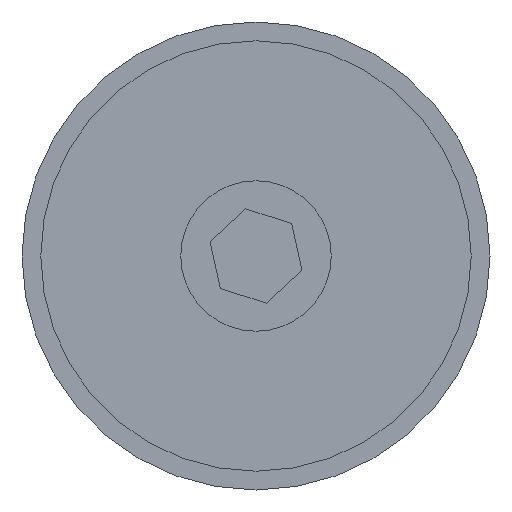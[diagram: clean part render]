
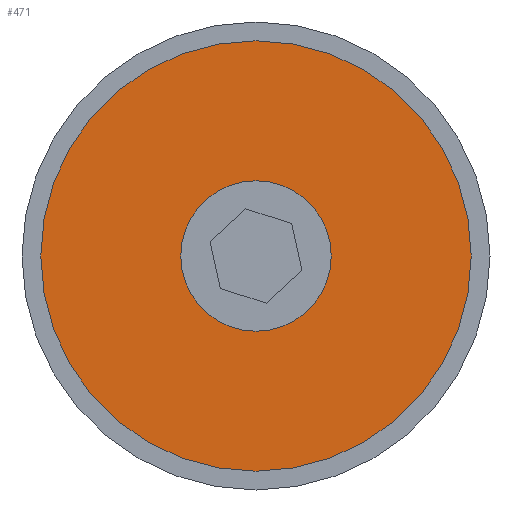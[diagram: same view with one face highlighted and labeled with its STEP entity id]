
A CAD part, front view. The second image highlights one B-rep face of the part: STEP entity #471.
In plain terms, the highlighted planar face has unit normal (0, -1, 0).
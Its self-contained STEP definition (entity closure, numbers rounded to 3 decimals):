
#43 = AXIS2_PLACEMENT_3D ( 'NONE', #485, #429, #414 ) ;
#91 = CARTESIAN_POINT ( 'NONE',  ( 0., 0., 9. ) ) ;
#125 = CIRCLE ( 'NONE', #322, 25.75 ) ;
#322 = AXIS2_PLACEMENT_3D ( 'NONE', #714, #646, #639 ) ;
#330 = CIRCLE ( 'NONE', #1109, 9. ) ;
#414 = DIRECTION ( 'NONE',  ( 0., 0., 1. ) ) ;
#429 = DIRECTION ( 'NONE',  ( 0., 1., 0. ) ) ;
#471 = ADVANCED_FACE ( 'NONE', ( #675, #2072 ), #1214, .T. ) ;
#485 = CARTESIAN_POINT ( 'NONE',  ( 0., 0., 0. ) ) ;
#510 = EDGE_CURVE ( 'NONE', #1750, #956, #721, .T. ) ;
#559 = CIRCLE ( 'NONE', #43, 9. ) ;
#639 = DIRECTION ( 'NONE',  ( 0., 0., 1. ) ) ;
#643 = DIRECTION ( 'NONE',  ( 0., -1., 0. ) ) ;
#646 = DIRECTION ( 'NONE',  ( 0., -1., 0. ) ) ;
#675 = FACE_OUTER_BOUND ( 'NONE', #1951, .T. ) ;
#714 = CARTESIAN_POINT ( 'NONE',  ( 0., 0., 0. ) ) ;
#721 = CIRCLE ( 'NONE', #1078, 25.75 ) ;
#931 = CARTESIAN_POINT ( 'NONE',  ( -25.75, 0., 0. ) ) ;
#956 = VERTEX_POINT ( 'NONE', #1780 ) ;
#982 = AXIS2_PLACEMENT_3D ( 'NONE', #931, #1075, #1383 ) ;
#1054 = CARTESIAN_POINT ( 'NONE',  ( 0., 0., 25.75 ) ) ;
#1075 = DIRECTION ( 'NONE',  ( 0., -1., 0. ) ) ;
#1078 = AXIS2_PLACEMENT_3D ( 'NONE', #1772, #643, #1603 ) ;
#1103 = VERTEX_POINT ( 'NONE', #1952 ) ;
#1109 = AXIS2_PLACEMENT_3D ( 'NONE', #1745, #1775, #1932 ) ;
#1188 = ORIENTED_EDGE ( 'NONE', *, *, #510, .T. ) ;
#1214 = PLANE ( 'NONE',  #982 ) ;
#1257 = EDGE_CURVE ( 'NONE', #1786, #1103, #330, .T. ) ;
#1383 = DIRECTION ( 'NONE',  ( 0., 0., -1. ) ) ;
#1483 = EDGE_CURVE ( 'NONE', #956, #1750, #125, .T. ) ;
#1603 = DIRECTION ( 'NONE',  ( 0., 0., 1. ) ) ;
#1697 = ORIENTED_EDGE ( 'NONE', *, *, #1483, .T. ) ;
#1722 = ORIENTED_EDGE ( 'NONE', *, *, #1857, .T. ) ;
#1742 = ORIENTED_EDGE ( 'NONE', *, *, #1257, .T. ) ;
#1745 = CARTESIAN_POINT ( 'NONE',  ( 0., 0., 0. ) ) ;
#1750 = VERTEX_POINT ( 'NONE', #1054 ) ;
#1772 = CARTESIAN_POINT ( 'NONE',  ( 0., 0., 0. ) ) ;
#1775 = DIRECTION ( 'NONE',  ( 0., 1., 0. ) ) ;
#1780 = CARTESIAN_POINT ( 'NONE',  ( 0., 0., -25.75 ) ) ;
#1786 = VERTEX_POINT ( 'NONE', #91 ) ;
#1857 = EDGE_CURVE ( 'NONE', #1103, #1786, #559, .T. ) ;
#1932 = DIRECTION ( 'NONE',  ( 0., 0., 1. ) ) ;
#1951 = EDGE_LOOP ( 'NONE', ( #1188, #1697 ) ) ;
#1952 = CARTESIAN_POINT ( 'NONE',  ( 0., 0., -9. ) ) ;
#2010 = EDGE_LOOP ( 'NONE', ( #1742, #1722 ) ) ;
#2072 = FACE_BOUND ( 'NONE', #2010, .T. ) ;
